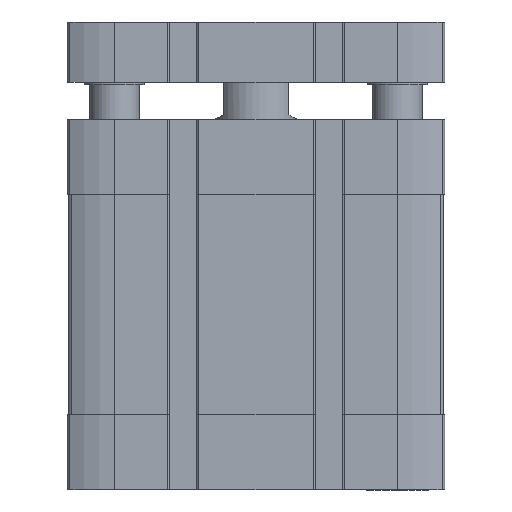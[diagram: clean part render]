
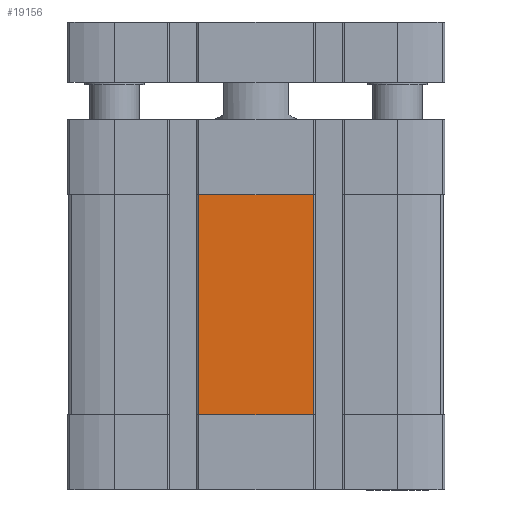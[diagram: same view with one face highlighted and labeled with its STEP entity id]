
A CAD part, left-side view. The second image highlights one B-rep face of the part: STEP entity #19156.
In plain terms, the highlighted planar face has unit normal (-1, 0, 0) as drawn and (0, 1, 0) by its records, which use the part's own axes.
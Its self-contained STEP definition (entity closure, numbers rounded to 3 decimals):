
#883 = CARTESIAN_POINT ( 'NONE',  ( 0., 37.5, -15. ) ) ;
#2081 = PLANE ( 'NONE',  #8609 ) ;
#2178 = FACE_OUTER_BOUND ( 'NONE', #21280, .T. ) ;
#2393 = DIRECTION ( 'NONE',  ( 0., 0., 1. ) ) ;
#2955 = CARTESIAN_POINT ( 'NONE',  ( 11.4, 37.5, -59. ) ) ;
#3832 = VECTOR ( 'NONE', #15334, 1000. ) ;
#3849 = DIRECTION ( 'NONE',  ( 0., 0., 1. ) ) ;
#4174 = VECTOR ( 'NONE', #4713, 1000. ) ;
#4319 = CARTESIAN_POINT ( 'NONE',  ( 11.4, 37.5, -59. ) ) ;
#4713 = DIRECTION ( 'NONE',  ( -1., 0., 0. ) ) ;
#4826 = EDGE_CURVE ( 'NONE', #20219, #21083, #8607, .T. ) ;
#5556 = CARTESIAN_POINT ( 'NONE',  ( 11.4, 37.5, -59. ) ) ;
#5572 = CARTESIAN_POINT ( 'NONE',  ( 11.4, 37.5, -15. ) ) ;
#5730 = ORIENTED_EDGE ( 'NONE', *, *, #4826, .T. ) ;
#6308 = CARTESIAN_POINT ( 'NONE',  ( 11.4, 37.5, -59. ) ) ;
#6609 = ORIENTED_EDGE ( 'NONE', *, *, #19838, .T. ) ;
#7680 = CARTESIAN_POINT ( 'NONE',  ( -11.4, 37.5, -59. ) ) ;
#7693 = EDGE_CURVE ( 'NONE', #9793, #19736, #14336, .T. ) ;
#8482 = VECTOR ( 'NONE', #2393, 1000. ) ;
#8607 = LINE ( 'NONE', #6308, #3832 ) ;
#8609 = AXIS2_PLACEMENT_3D ( 'NONE', #5556, #14558, #3849 ) ;
#9793 = VERTEX_POINT ( 'NONE', #12155 ) ;
#12155 = CARTESIAN_POINT ( 'NONE',  ( -11.4, 37.5, -59. ) ) ;
#12482 = LINE ( 'NONE', #883, #17811 ) ;
#12624 = ORIENTED_EDGE ( 'NONE', *, *, #17394, .T. ) ;
#13360 = DIRECTION ( 'NONE',  ( 1., 0., 0. ) ) ;
#14336 = LINE ( 'NONE', #7680, #8482 ) ;
#14558 = DIRECTION ( 'NONE',  ( 0., 1., 0. ) ) ;
#15334 = DIRECTION ( 'NONE',  ( 0., 0., -1. ) ) ;
#17394 = EDGE_CURVE ( 'NONE', #21083, #9793, #18470, .T. ) ;
#17811 = VECTOR ( 'NONE', #13360, 1000. ) ;
#18058 = ORIENTED_EDGE ( 'NONE', *, *, #7693, .T. ) ;
#18470 = LINE ( 'NONE', #2955, #4174 ) ;
#19156 = ADVANCED_FACE ( 'NONE', ( #2178 ), #2081, .T. ) ;
#19736 = VERTEX_POINT ( 'NONE', #20177 ) ;
#19838 = EDGE_CURVE ( 'NONE', #19736, #20219, #12482, .T. ) ;
#20177 = CARTESIAN_POINT ( 'NONE',  ( -11.4, 37.5, -15. ) ) ;
#20219 = VERTEX_POINT ( 'NONE', #5572 ) ;
#21083 = VERTEX_POINT ( 'NONE', #4319 ) ;
#21280 = EDGE_LOOP ( 'NONE', ( #12624, #18058, #6609, #5730 ) ) ;
